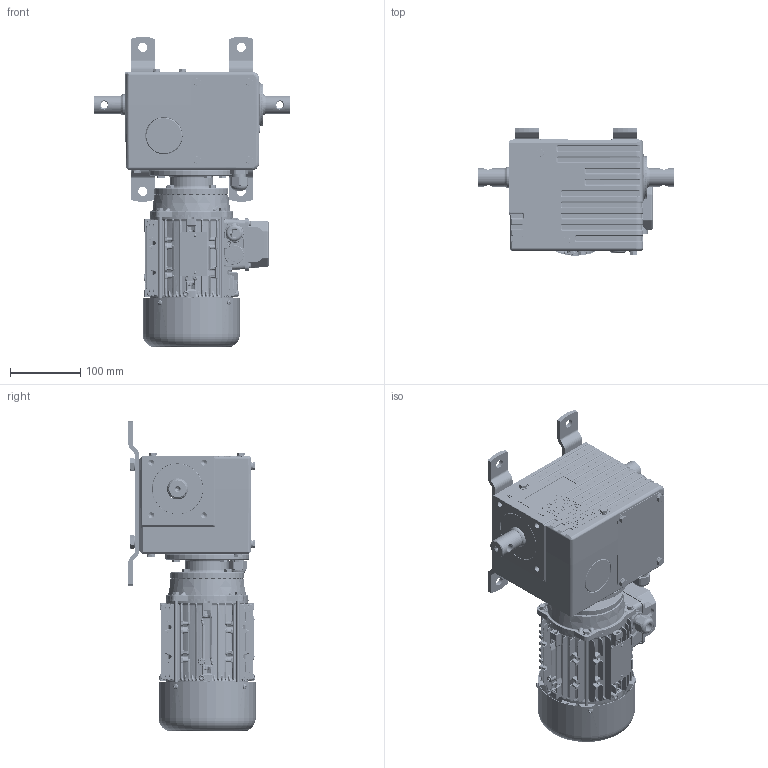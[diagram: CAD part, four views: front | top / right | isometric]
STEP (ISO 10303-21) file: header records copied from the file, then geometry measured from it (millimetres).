
FILE_DESCRIPTION (( 'STEP AP214' ), '1' );
FILE_NAME ('Elektroantrieb_EWA_10176291.STEP', '2022-09-28T12:43:46', ( '' ), ( '' ), 'SwSTEP 2.0', 'SolidWorks 2022', '' );
FILE_SCHEMA (( 'AUTOMOTIVE_DESIGN' ));
Length unit declared in the file: millimetre
Products named in the file (66): Schraube_10028710; Schraube_10018291; 010194287_EWA_12_3D-Modell_DE_10194287; Scheibe_10028541; Elektroteil_10001639; 010202653__3D__DE_84102.0055.PM01; 010198258_EWA_3D-Modell_DE_10198258; Scheibe_10011829; 010191515_Normteil_Kaufteil_3D-Modell_DE_10191515; Elektroantrieb_EWA_10176291; 010200543_EWA_12_3D__DE; Wälzlager_10028816; Dichtelement_10030522; Sicherungselement_10028703; Scheibe_10028540; 010192906_EWA_12_3D-Modell_DE_10192906_END 20-90000.0002.6290 m.SB; Sicherungselement_10032477; Schraube_10002078; Scheibe_10002061; Sicherungselement_10001720; Schneckenrad_10001550; Kennzeichnung_10001854; Verbindungselement_10057233; Elektroteil_10001640; Schraube_10028537; Elektroantrieb_EWA_10176292; Dichtelement_10032469; Wälzlager_10049221; Elektroteil_10028551; 010200547_EWA_12_3D__DE_Ohne Inhalt; Dichtelement_10000401_Für Werkzeug<Standard>; Dichtelement_10005476; Verbindungselement_10001719; Schnecke_10000618; Wälzlager_10001868; Wälzlager_10049213; Sicherungselement_10001702; Schnecke_10001040; Schraube_10028863; Schneckenrad_10165932_<Standard>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
Assembly tree (49 placements, depth 4):
  Scheibe_10028541
  Scheibe_10011829
  Elektroantrieb_EWA_10176291
    Elektroantrieb_EWA_10176292
      010192906_EWA_12_3D-Modell_DE_10192906_END 20-90000.0002.6290 m.SB
      Elektroteil_10001640
      Montageplatte_10000170  x2
      Schraube_10028710
      Schraube_10028710
      Schraube_10028710
      Schraube_10028710
      Dichtelement_10005476
      Dichtelement_10032469
      Elektroteil_10001639
      Elektroteil_10028709
      Dichtelement_10047460
        Dichtelement_10000401_Für Werkzeug<Standard>
      Deckel_10000048
      Scheibe_10002061  x8
      010191515_Normteil_Kaufteil_3D-Modell_DE_10191515
      010191515_Normteil_Kaufteil_3D-Modell_DE_10191515
      010191515_Normteil_Kaufteil_3D-Modell_DE_10191515
      010191515_Normteil_Kaufteil_3D-Modell_DE_10191515
      Wälzlager_10001868
      Schraube_10018291
      Schraube_10018291
      Schraube_10018291
      Schraube_10018291
      010194287_EWA_12_3D-Modell_DE_10194287
      Dichtelement_10001203
    Schraube_10014320
    Schraube_10002078
    Schraube_10002078
    Schraube_10002078
    Schraube_10002078
    Kennzeichnung_10001854
    010200547_EWA_12_3D__DE_Ohne Inhalt
      010200543_EWA_12_3D__DE
      010198258_EWA_3D-Modell_DE_10198258
      Schraube_10002078  x4
    010202653__3D__DE_84102.0055.PM01
  Wälzlager_10028816
  Dichtelement_10030522
Bounding box: 280 x 181.05 x 441.62 mm (x, y, z)
Volume: 1949390.9 mm3; surface area: 948899.3 mm2
Topology: 94 solids, 97 shells, 12178 faces, 29328 edges, 17152 vertices
Faces by surface type: cylinder 3411, bspline 3348, plane 2866, torus 987, cone 801, sphere 765
Entity records: 767622 total; most frequent: CARTESIAN_POINT 413687, ORIENTED_EDGE 56856, DIRECTION 42149, EDGE_CURVE 28428, VERTEX_POINT 16832, AXIS2_PLACEMENT_3D 16185, EDGE_LOOP 12584, ADVANCED_FACE 12008
